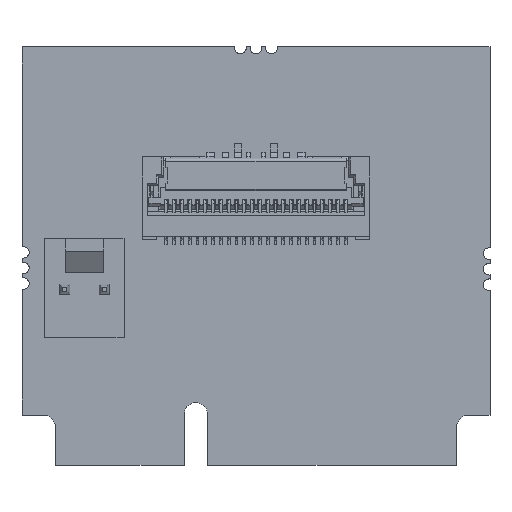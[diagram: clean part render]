
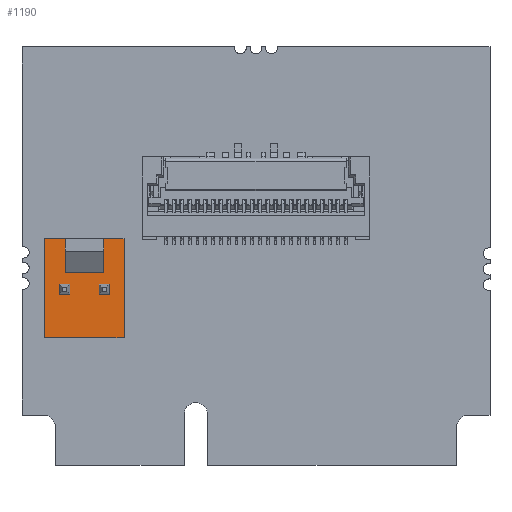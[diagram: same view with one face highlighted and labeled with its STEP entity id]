
A CAD part, top view. The second image highlights one B-rep face of the part: STEP entity #1190.
In plain terms, the highlighted planar face has unit normal (0, 0, 1).
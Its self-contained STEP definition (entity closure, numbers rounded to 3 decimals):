
#24=FACE_BOUND('',#5577,.T.);
#25=FACE_BOUND('',#5578,.T.);
#26=FACE_BOUND('',#5579,.T.);
#1190=ADVANCED_FACE('',(#24,#25,#26),#2753,.F.);
#2753=PLANE('',#34586);
#5577=EDGE_LOOP('',(#7459,#7460,#7461,#7462,#7463,#7464,#7465,#7466));
#5578=EDGE_LOOP('',(#7467,#7468,#7469,#7470));
#5579=EDGE_LOOP('',(#7471,#7472,#7473,#7474));
#7459=ORIENTED_EDGE('',*,*,#20784,.T.);
#7460=ORIENTED_EDGE('',*,*,#20785,.T.);
#7461=ORIENTED_EDGE('',*,*,#20763,.T.);
#7462=ORIENTED_EDGE('',*,*,#20756,.T.);
#7463=ORIENTED_EDGE('',*,*,#20779,.T.);
#7464=ORIENTED_EDGE('',*,*,#20772,.T.);
#7465=ORIENTED_EDGE('',*,*,#20767,.T.);
#7466=ORIENTED_EDGE('',*,*,#20786,.F.);
#7467=ORIENTED_EDGE('',*,*,#20787,.F.);
#7468=ORIENTED_EDGE('',*,*,#20788,.F.);
#7469=ORIENTED_EDGE('',*,*,#20789,.F.);
#7470=ORIENTED_EDGE('',*,*,#20790,.F.);
#7471=ORIENTED_EDGE('',*,*,#20791,.F.);
#7472=ORIENTED_EDGE('',*,*,#20792,.F.);
#7473=ORIENTED_EDGE('',*,*,#20793,.F.);
#7474=ORIENTED_EDGE('',*,*,#20794,.F.);
#17375=VERTEX_POINT('',#45956);
#17376=VERTEX_POINT('',#45957);
#17380=VERTEX_POINT('',#45969);
#17383=VERTEX_POINT('',#45975);
#17384=VERTEX_POINT('',#45977);
#17388=VERTEX_POINT('',#45987);
#17395=VERTEX_POINT('',#46009);
#17396=VERTEX_POINT('',#46010);
#17397=VERTEX_POINT('',#46014);
#17398=VERTEX_POINT('',#46015);
#17399=VERTEX_POINT('',#46017);
#17400=VERTEX_POINT('',#46019);
#17401=VERTEX_POINT('',#46022);
#17402=VERTEX_POINT('',#46023);
#17403=VERTEX_POINT('',#46025);
#17404=VERTEX_POINT('',#46027);
#20756=EDGE_CURVE('',#17375,#17376,#25794,.T.);
#20763=EDGE_CURVE('',#17380,#17375,#25801,.T.);
#20767=EDGE_CURVE('',#17384,#17383,#25805,.T.);
#20772=EDGE_CURVE('',#17388,#17384,#25810,.T.);
#20779=EDGE_CURVE('',#17376,#17388,#25817,.T.);
#20784=EDGE_CURVE('',#17395,#17396,#25822,.T.);
#20785=EDGE_CURVE('',#17396,#17380,#25823,.T.);
#20786=EDGE_CURVE('',#17395,#17383,#25824,.T.);
#20787=EDGE_CURVE('',#17397,#17398,#25825,.T.);
#20788=EDGE_CURVE('',#17399,#17397,#25826,.T.);
#20789=EDGE_CURVE('',#17400,#17399,#25827,.T.);
#20790=EDGE_CURVE('',#17398,#17400,#25828,.T.);
#20791=EDGE_CURVE('',#17401,#17402,#25829,.T.);
#20792=EDGE_CURVE('',#17403,#17401,#25830,.T.);
#20793=EDGE_CURVE('',#17404,#17403,#25831,.T.);
#20794=EDGE_CURVE('',#17402,#17404,#25832,.T.);
#25794=LINE('',#45955,#30198);
#25801=LINE('',#45968,#30205);
#25805=LINE('',#45976,#30209);
#25810=LINE('',#45986,#30214);
#25817=LINE('',#45999,#30221);
#25822=LINE('',#46008,#30226);
#25823=LINE('',#46011,#30227);
#25824=LINE('',#46012,#30228);
#25825=LINE('',#46013,#30229);
#25826=LINE('',#46016,#30230);
#25827=LINE('',#46018,#30231);
#25828=LINE('',#46020,#30232);
#25829=LINE('',#46021,#30233);
#25830=LINE('',#46024,#30234);
#25831=LINE('',#46026,#30235);
#25832=LINE('',#46028,#30236);
#30198=VECTOR('',#37040,1.);
#30205=VECTOR('',#37049,1.);
#30209=VECTOR('',#37053,1.);
#30214=VECTOR('',#37060,1.);
#30221=VECTOR('',#37069,1.);
#30226=VECTOR('',#37078,1.);
#30227=VECTOR('',#37079,1.);
#30228=VECTOR('',#37080,1.);
#30229=VECTOR('',#37081,1.);
#30230=VECTOR('',#37082,1.);
#30231=VECTOR('',#37083,1.);
#30232=VECTOR('',#37084,1.);
#30233=VECTOR('',#37085,1.);
#30234=VECTOR('',#37086,1.);
#30235=VECTOR('',#37087,1.);
#30236=VECTOR('',#37088,1.);
#34586=AXIS2_PLACEMENT_3D('',#46029,#37089,#37090);
#37040=DIRECTION('',(0.,-1.,0.));
#37049=DIRECTION('',(-1.,0.,0.));
#37053=DIRECTION('',(-1.,0.,0.));
#37060=DIRECTION('',(0.,1.,0.));
#37069=DIRECTION('',(1.,0.,0.));
#37078=DIRECTION('',(-1.,0.,0.));
#37079=DIRECTION('',(0.,1.,0.));
#37080=DIRECTION('',(0.,1.,0.));
#37081=DIRECTION('',(0.,-1.,0.));
#37082=DIRECTION('',(-1.,0.,0.));
#37083=DIRECTION('',(0.,1.,0.));
#37084=DIRECTION('',(1.,0.,0.));
#37085=DIRECTION('',(1.,0.,0.));
#37086=DIRECTION('',(0.,-1.,0.));
#37087=DIRECTION('',(-1.,0.,0.));
#37088=DIRECTION('',(0.,1.,0.));
#37089=DIRECTION('',(0.,0.,-1.));
#37090=DIRECTION('',(0.,-1.,0.));
#45955=CARTESIAN_POINT('',(-280.44,-295.05,3.205));
#45956=CARTESIAN_POINT('',(-280.44,-288.7,3.205));
#45957=CARTESIAN_POINT('',(-280.44,-295.05,3.205));
#45968=CARTESIAN_POINT('',(-280.44,-288.7,3.205));
#45969=CARTESIAN_POINT('',(-279.125,-288.7,3.205));
#45975=CARTESIAN_POINT('',(-276.675,-288.7,3.205));
#45976=CARTESIAN_POINT('',(-280.44,-288.7,3.205));
#45977=CARTESIAN_POINT('',(-275.36,-288.7,3.205));
#45986=CARTESIAN_POINT('',(-275.36,-295.05,3.205));
#45987=CARTESIAN_POINT('',(-275.36,-295.05,3.205));
#45999=CARTESIAN_POINT('',(-280.44,-295.05,3.205));
#46008=CARTESIAN_POINT('',(-276.675,-289.745,3.205));
#46009=CARTESIAN_POINT('',(-276.675,-289.745,3.205));
#46010=CARTESIAN_POINT('',(-279.125,-289.745,3.205));
#46011=CARTESIAN_POINT('',(-279.125,-289.745,3.205));
#46012=CARTESIAN_POINT('',(-276.675,-289.745,3.205));
#46013=CARTESIAN_POINT('',(-276.96,-291.62,3.205));
#46014=CARTESIAN_POINT('',(-276.96,-291.62,3.205));
#46015=CARTESIAN_POINT('',(-276.96,-292.28,3.205));
#46016=CARTESIAN_POINT('',(-276.3,-291.62,3.205));
#46017=CARTESIAN_POINT('',(-276.3,-291.62,3.205));
#46018=CARTESIAN_POINT('',(-276.3,-291.62,3.205));
#46019=CARTESIAN_POINT('',(-276.3,-292.28,3.205));
#46020=CARTESIAN_POINT('',(-276.3,-292.28,3.205));
#46021=CARTESIAN_POINT('',(-279.5,-292.28,3.205));
#46022=CARTESIAN_POINT('',(-279.5,-292.28,3.205));
#46023=CARTESIAN_POINT('',(-278.84,-292.28,3.205));
#46024=CARTESIAN_POINT('',(-279.5,-291.62,3.205));
#46025=CARTESIAN_POINT('',(-279.5,-291.62,3.205));
#46026=CARTESIAN_POINT('',(-279.5,-291.62,3.205));
#46027=CARTESIAN_POINT('',(-278.84,-291.62,3.205));
#46028=CARTESIAN_POINT('',(-278.84,-291.62,3.205));
#46029=CARTESIAN_POINT('',(-280.44,-288.7,3.205));
